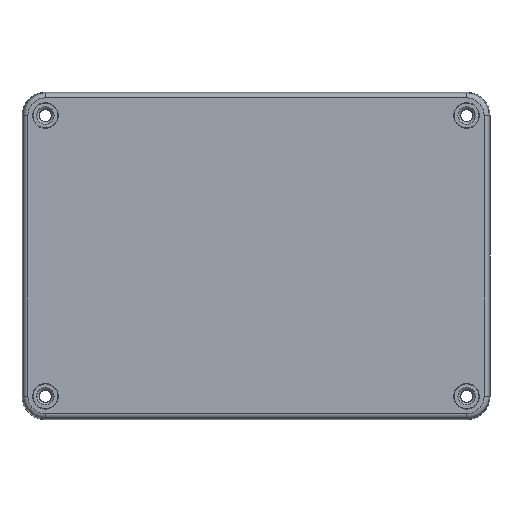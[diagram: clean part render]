
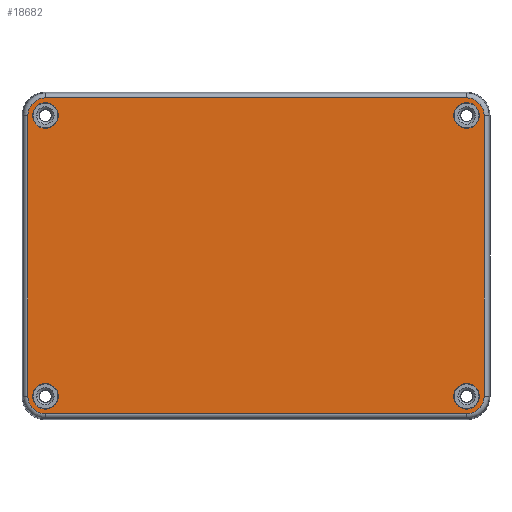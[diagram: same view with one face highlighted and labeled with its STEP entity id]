
A CAD part, top view. The second image highlights one B-rep face of the part: STEP entity #18682.
In plain terms, the highlighted planar face has unit normal (0, 0, 1) as drawn and (0, 0, -1) by its records, which use the part's own axes.
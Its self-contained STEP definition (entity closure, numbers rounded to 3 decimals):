
#104 = CARTESIAN_POINT ( 'NONE',  ( -90., -60., 0. ) ) ;
#127 = FACE_BOUND ( 'NONE', #8903, .T. ) ;
#202 = ORIENTED_EDGE ( 'NONE', *, *, #7114, .T. ) ;
#408 = CARTESIAN_POINT ( 'NONE',  ( 0., 67.511, 0. ) ) ;
#506 = CARTESIAN_POINT ( 'NONE',  ( -90., -60., 0. ) ) ;
#547 = CARTESIAN_POINT ( 'NONE',  ( -90., 60., 0. ) ) ;
#561 = EDGE_CURVE ( 'NONE', #16738, #16864, #6433, .T. ) ;
#628 = DIRECTION ( 'NONE',  ( 0., 0., -1. ) ) ;
#1011 = VECTOR ( 'NONE', #20436, 1000. ) ;
#1078 = EDGE_CURVE ( 'NONE', #17245, #17716, #12420, .T. ) ;
#1095 = CARTESIAN_POINT ( 'NONE',  ( 0., -67.511, 0. ) ) ;
#1122 = DIRECTION ( 'NONE',  ( 0., -1., 0. ) ) ;
#1356 = FACE_OUTER_BOUND ( 'NONE', #5162, .T. ) ;
#1365 = CIRCLE ( 'NONE', #18487, 7.511 ) ;
#1848 = VERTEX_POINT ( 'NONE', #15858 ) ;
#2124 = DIRECTION ( 'NONE',  ( 1., 0., 0. ) ) ;
#2171 = VERTEX_POINT ( 'NONE', #18225 ) ;
#2172 = VERTEX_POINT ( 'NONE', #8664 ) ;
#2193 = EDGE_CURVE ( 'NONE', #20012, #15497, #1365, .T. ) ;
#2576 = DIRECTION ( 'NONE',  ( 0., 0., 1. ) ) ;
#2625 = DIRECTION ( 'NONE',  ( 1., 0., 0. ) ) ;
#2646 = CARTESIAN_POINT ( 'NONE',  ( -84.5, 60., 0. ) ) ;
#3563 = DIRECTION ( 'NONE',  ( 0., 0., -1. ) ) ;
#3700 = CIRCLE ( 'NONE', #10784, 5.5 ) ;
#3711 = DIRECTION ( 'NONE',  ( 0., 0., -1. ) ) ;
#3959 = ORIENTED_EDGE ( 'NONE', *, *, #10622, .F. ) ;
#4266 = LINE ( 'NONE', #14360, #5500 ) ;
#4407 = EDGE_CURVE ( 'NONE', #2171, #1848, #14908, .T. ) ;
#4727 = VERTEX_POINT ( 'NONE', #10568 ) ;
#4827 = CARTESIAN_POINT ( 'NONE',  ( 97.511, -60., 0. ) ) ;
#5113 = ORIENTED_EDGE ( 'NONE', *, *, #4407, .F. ) ;
#5162 = EDGE_LOOP ( 'NONE', ( #15284, #11176, #19588, #202, #18050, #13859, #15823, #11028 ) ) ;
#5457 = VECTOR ( 'NONE', #1122, 1000. ) ;
#5500 = VECTOR ( 'NONE', #7961, 1000. ) ;
#5542 = AXIS2_PLACEMENT_3D ( 'NONE', #11011, #7913, #12771 ) ;
#5609 = FACE_BOUND ( 'NONE', #15714, .T. ) ;
#5793 = AXIS2_PLACEMENT_3D ( 'NONE', #10211, #628, #11811 ) ;
#5936 = EDGE_LOOP ( 'NONE', ( #3959, #11694 ) ) ;
#5940 = VERTEX_POINT ( 'NONE', #9972 ) ;
#5985 = CARTESIAN_POINT ( 'NONE',  ( 90., -60., 0. ) ) ;
#6273 = LINE ( 'NONE', #1095, #1011 ) ;
#6401 = VERTEX_POINT ( 'NONE', #2646 ) ;
#6404 = CARTESIAN_POINT ( 'NONE',  ( 95.5, -60., 0. ) ) ;
#6433 = LINE ( 'NONE', #408, #12693 ) ;
#6557 = AXIS2_PLACEMENT_3D ( 'NONE', #9536, #15796, #12603 ) ;
#6841 = EDGE_CURVE ( 'NONE', #17452, #16738, #17303, .T. ) ;
#7007 = CARTESIAN_POINT ( 'NONE',  ( 90., 60., 0. ) ) ;
#7114 = EDGE_CURVE ( 'NONE', #17693, #15831, #14277, .T. ) ;
#7249 = CARTESIAN_POINT ( 'NONE',  ( -97.511, 60., 0. ) ) ;
#7566 = AXIS2_PLACEMENT_3D ( 'NONE', #12498, #15960, #9410 ) ;
#7568 = CIRCLE ( 'NONE', #8517, 5.5 ) ;
#7913 = DIRECTION ( 'NONE',  ( 0., 0., -1. ) ) ;
#7961 = DIRECTION ( 'NONE',  ( 0., 1., 0. ) ) ;
#7997 = DIRECTION ( 'NONE',  ( 0., 0., -1. ) ) ;
#8040 = AXIS2_PLACEMENT_3D ( 'NONE', #16508, #8282, #8409 ) ;
#8185 = ORIENTED_EDGE ( 'NONE', *, *, #16135, .F. ) ;
#8194 = DIRECTION ( 'NONE',  ( -1., 0., 0. ) ) ;
#8282 = DIRECTION ( 'NONE',  ( 0., 0., -1. ) ) ;
#8306 = EDGE_CURVE ( 'NONE', #16864, #4727, #11688, .T. ) ;
#8409 = DIRECTION ( 'NONE',  ( 1., 0., 0. ) ) ;
#8444 = DIRECTION ( 'NONE',  ( 1., 0., 0. ) ) ;
#8517 = AXIS2_PLACEMENT_3D ( 'NONE', #547, #16529, #18143 ) ;
#8614 = DIRECTION ( 'NONE',  ( -1., 0., 0. ) ) ;
#8664 = CARTESIAN_POINT ( 'NONE',  ( -95.5, 60., 0. ) ) ;
#8903 = EDGE_LOOP ( 'NONE', ( #19237, #8185 ) ) ;
#9004 = DIRECTION ( 'NONE',  ( -1., 0., 0. ) ) ;
#9085 = CARTESIAN_POINT ( 'NONE',  ( 97.511, 0., 0. ) ) ;
#9222 = EDGE_CURVE ( 'NONE', #17716, #17245, #3700, .T. ) ;
#9410 = DIRECTION ( 'NONE',  ( -1., 0., 0. ) ) ;
#9502 = EDGE_LOOP ( 'NONE', ( #14781, #5113 ) ) ;
#9536 = CARTESIAN_POINT ( 'NONE',  ( -90., -60., 0. ) ) ;
#9563 = EDGE_CURVE ( 'NONE', #6401, #2172, #17732, .T. ) ;
#9876 = FACE_BOUND ( 'NONE', #5936, .T. ) ;
#9971 = AXIS2_PLACEMENT_3D ( 'NONE', #104, #7997, #8194 ) ;
#9972 = CARTESIAN_POINT ( 'NONE',  ( 95.5, 60., 0. ) ) ;
#10211 = CARTESIAN_POINT ( 'NONE',  ( 90., 60., 0. ) ) ;
#10310 = AXIS2_PLACEMENT_3D ( 'NONE', #13820, #10575, #2625 ) ;
#10568 = CARTESIAN_POINT ( 'NONE',  ( 97.511, 60., 0. ) ) ;
#10575 = DIRECTION ( 'NONE',  ( 0., 0., -1. ) ) ;
#10622 = EDGE_CURVE ( 'NONE', #2172, #6401, #7568, .T. ) ;
#10784 = AXIS2_PLACEMENT_3D ( 'NONE', #5985, #20383, #9004 ) ;
#11011 = CARTESIAN_POINT ( 'NONE',  ( 90., 60., 0. ) ) ;
#11028 = ORIENTED_EDGE ( 'NONE', *, *, #6841, .T. ) ;
#11081 = CARTESIAN_POINT ( 'NONE',  ( -90., -67.511, 0. ) ) ;
#11117 = CIRCLE ( 'NONE', #5793, 5.5 ) ;
#11176 = ORIENTED_EDGE ( 'NONE', *, *, #8306, .T. ) ;
#11450 = CARTESIAN_POINT ( 'NONE',  ( 90., -60., 0. ) ) ;
#11500 = CARTESIAN_POINT ( 'NONE',  ( 84.5, 60., 0. ) ) ;
#11582 = DIRECTION ( 'NONE',  ( -1., 0., 0. ) ) ;
#11688 = CIRCLE ( 'NONE', #5542, 7.511 ) ;
#11694 = ORIENTED_EDGE ( 'NONE', *, *, #9563, .F. ) ;
#11811 = DIRECTION ( 'NONE',  ( -1., 0., 0. ) ) ;
#11955 = LINE ( 'NONE', #9085, #5457 ) ;
#12062 = EDGE_CURVE ( 'NONE', #15497, #17452, #4266, .T. ) ;
#12122 = EDGE_CURVE ( 'NONE', #15831, #20012, #6273, .T. ) ;
#12340 = CIRCLE ( 'NONE', #9971, 5.5 ) ;
#12420 = CIRCLE ( 'NONE', #13618, 5.5 ) ;
#12498 = CARTESIAN_POINT ( 'NONE',  ( -90., 60., 0. ) ) ;
#12603 = DIRECTION ( 'NONE',  ( -1., 0., 0. ) ) ;
#12693 = VECTOR ( 'NONE', #8444, 1000. ) ;
#12763 = CARTESIAN_POINT ( 'NONE',  ( 90., -67.511, 0. ) ) ;
#12771 = DIRECTION ( 'NONE',  ( 1., 0., 0. ) ) ;
#13256 = EDGE_CURVE ( 'NONE', #4727, #17693, #11955, .T. ) ;
#13366 = CARTESIAN_POINT ( 'NONE',  ( 90., 67.511, 0. ) ) ;
#13530 = AXIS2_PLACEMENT_3D ( 'NONE', #7007, #18240, #8614 ) ;
#13618 = AXIS2_PLACEMENT_3D ( 'NONE', #11450, #3563, #11582 ) ;
#13820 = CARTESIAN_POINT ( 'NONE',  ( 90., -60., 0. ) ) ;
#13859 = ORIENTED_EDGE ( 'NONE', *, *, #2193, .T. ) ;
#14277 = CIRCLE ( 'NONE', #10310, 7.511 ) ;
#14360 = CARTESIAN_POINT ( 'NONE',  ( -97.511, 0., 0. ) ) ;
#14504 = CARTESIAN_POINT ( 'NONE',  ( -90., 67.511, 0. ) ) ;
#14547 = ORIENTED_EDGE ( 'NONE', *, *, #1078, .F. ) ;
#14781 = ORIENTED_EDGE ( 'NONE', *, *, #20036, .F. ) ;
#14908 = CIRCLE ( 'NONE', #6557, 5.5 ) ;
#15109 = VERTEX_POINT ( 'NONE', #11500 ) ;
#15284 = ORIENTED_EDGE ( 'NONE', *, *, #561, .T. ) ;
#15497 = VERTEX_POINT ( 'NONE', #16383 ) ;
#15531 = CIRCLE ( 'NONE', #13530, 5.5 ) ;
#15714 = EDGE_LOOP ( 'NONE', ( #17704, #14547 ) ) ;
#15796 = DIRECTION ( 'NONE',  ( 0., 0., -1. ) ) ;
#15823 = ORIENTED_EDGE ( 'NONE', *, *, #12062, .T. ) ;
#15831 = VERTEX_POINT ( 'NONE', #12763 ) ;
#15858 = CARTESIAN_POINT ( 'NONE',  ( -95.5, -60., 0. ) ) ;
#15960 = DIRECTION ( 'NONE',  ( 0., 0., -1. ) ) ;
#16135 = EDGE_CURVE ( 'NONE', #5940, #15109, #15531, .T. ) ;
#16383 = CARTESIAN_POINT ( 'NONE',  ( -97.511, -60., 0. ) ) ;
#16508 = CARTESIAN_POINT ( 'NONE',  ( -90., 60., 0. ) ) ;
#16529 = DIRECTION ( 'NONE',  ( 0., 0., -1. ) ) ;
#16664 = FACE_BOUND ( 'NONE', #9502, .T. ) ;
#16738 = VERTEX_POINT ( 'NONE', #14504 ) ;
#16799 = CARTESIAN_POINT ( 'NONE',  ( 0., 0., 0. ) ) ;
#16864 = VERTEX_POINT ( 'NONE', #13366 ) ;
#16926 = DIRECTION ( 'NONE',  ( 1., 0., 0. ) ) ;
#17245 = VERTEX_POINT ( 'NONE', #6404 ) ;
#17303 = CIRCLE ( 'NONE', #8040, 7.511 ) ;
#17452 = VERTEX_POINT ( 'NONE', #7249 ) ;
#17693 = VERTEX_POINT ( 'NONE', #4827 ) ;
#17704 = ORIENTED_EDGE ( 'NONE', *, *, #9222, .F. ) ;
#17716 = VERTEX_POINT ( 'NONE', #20633 ) ;
#17732 = CIRCLE ( 'NONE', #7566, 5.5 ) ;
#17762 = AXIS2_PLACEMENT_3D ( 'NONE', #16799, #2576, #16926 ) ;
#18050 = ORIENTED_EDGE ( 'NONE', *, *, #12122, .T. ) ;
#18143 = DIRECTION ( 'NONE',  ( -1., 0., 0. ) ) ;
#18225 = CARTESIAN_POINT ( 'NONE',  ( -84.5, -60., 0. ) ) ;
#18240 = DIRECTION ( 'NONE',  ( 0., 0., -1. ) ) ;
#18487 = AXIS2_PLACEMENT_3D ( 'NONE', #506, #3711, #2124 ) ;
#18682 = ADVANCED_FACE ( 'NONE', ( #127, #9876, #16664, #5609, #1356 ), #20104, .F. ) ;
#19029 = EDGE_CURVE ( 'NONE', #15109, #5940, #11117, .T. ) ;
#19237 = ORIENTED_EDGE ( 'NONE', *, *, #19029, .F. ) ;
#19588 = ORIENTED_EDGE ( 'NONE', *, *, #13256, .T. ) ;
#20012 = VERTEX_POINT ( 'NONE', #11081 ) ;
#20036 = EDGE_CURVE ( 'NONE', #1848, #2171, #12340, .T. ) ;
#20104 = PLANE ( 'NONE',  #17762 ) ;
#20383 = DIRECTION ( 'NONE',  ( 0., 0., -1. ) ) ;
#20436 = DIRECTION ( 'NONE',  ( -1., 0., 0. ) ) ;
#20633 = CARTESIAN_POINT ( 'NONE',  ( 84.5, -60., 0. ) ) ;
